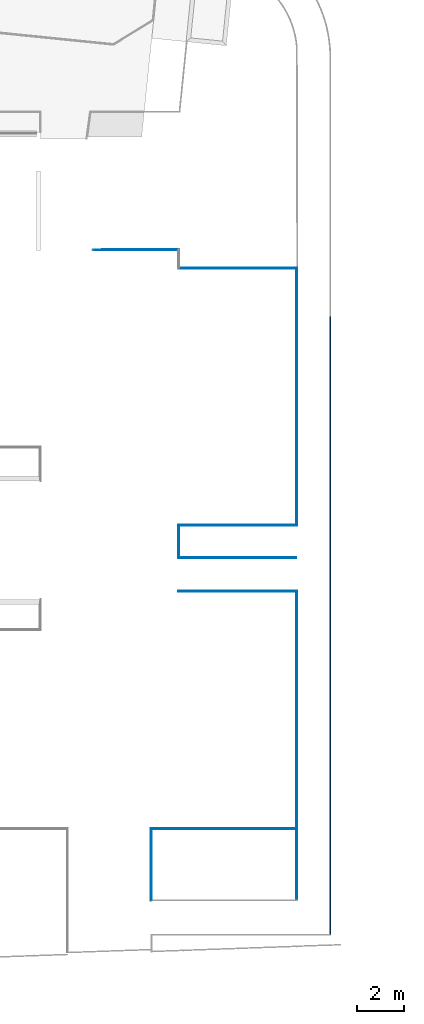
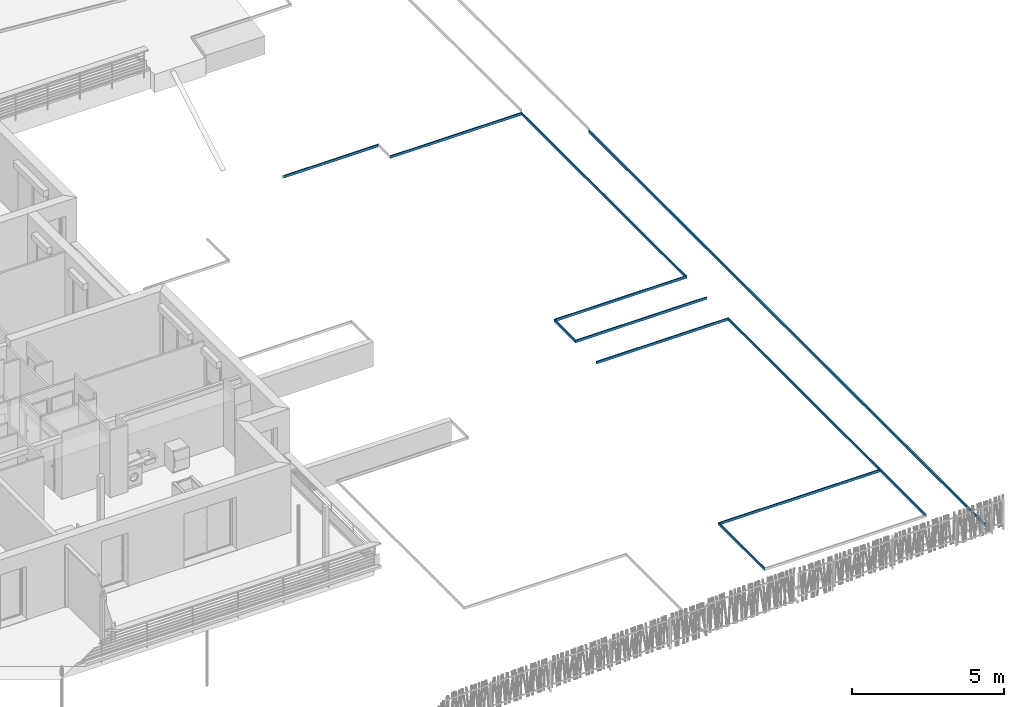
# One storey, part 46 of 171: 11 walls.
"""IFC2X3 building model written with IfcOpenShell, lengths in millimetres."""

from ifc_helpers import new_model, entity, si_unit, converted_unit, derived_unit, money_unit, direction, frame, origin_with_axes, place, context, subcontext, project, spatial, polyline, outline, extrude, material, layer, layer_set, layer_usage, type_object, element, save


model = new_model("IFC2X3")

# Units and contexts
model_context = context("Model", 3, precision=0.01, world=origin_with_axes(), true_north=direction((0.0, 1.0)))
body_context = subcontext(model_context, "Body", "Model", "MODEL_VIEW")
ifc_project = project(units=[si_unit("LENGTHUNIT", "METRE", prefix="MILLI"), si_unit("AREAUNIT", "SQUARE_METRE"), si_unit("VOLUMEUNIT", "CUBIC_METRE"), converted_unit("PLANEANGLEUNIT", "DEGREE", entity("IfcPlaneAngleMeasure", 0.0174532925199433), si_unit("PLANEANGLEUNIT", "RADIAN"), dimensions=[0, 0, 0, 0, 0, 0, 0]), money_unit("USD"), converted_unit("TIMEUNIT", "Year", entity("IfcTimeMeasure", 31557600.0), si_unit("TIMEUNIT", "SECOND"), dimensions=[0, 0, 1, 0, 0, 0, 0]), si_unit("MASSUNIT", "GRAM", prefix="KILO"), si_unit("THERMODYNAMICTEMPERATUREUNIT", "DEGREE_CELSIUS"), si_unit("LUMINOUSINTENSITYUNIT", "LUMEN"), si_unit("ENERGYUNIT", "JOULE", prefix="MEGA"), derived_unit("THERMALCONDUCTANCEUNIT", [(si_unit("POWERUNIT", "WATT"), 1), (si_unit("LENGTHUNIT", "METRE"), -1), (si_unit("THERMODYNAMICTEMPERATUREUNIT", "KELVIN"), -1)]), derived_unit("SPECIFICHEATCAPACITYUNIT", [(si_unit("ENERGYUNIT", "JOULE"), 1), (si_unit("MASSUNIT", "GRAM", prefix="KILO"), -1), (si_unit("THERMODYNAMICTEMPERATUREUNIT", "KELVIN"), -1)]), derived_unit("MASSDENSITYUNIT", [(si_unit("MASSUNIT", "GRAM", prefix="KILO"), 1), (si_unit("VOLUMEUNIT", "CUBIC_METRE"), -1)])], contexts=[model_context])

# Site, building, storey
site_placement = place(None, origin_with_axes())
site = spatial("IfcSite", under=ifc_project, at=site_placement, Name="Site", CompositionType="ELEMENT")
building_placement = place(site_placement, origin_with_axes())
building = spatial("IfcBuilding", under=site, at=building_placement, Name="Bâtiment", CompositionType="ELEMENT")
storey_placement = place(building_placement, frame((0.0, 0.0, 3000.0), z_axis=(0.0, 0.0, 1.0), x_axis=(1.0, 0.0, 0.0)))
storey = spatial("IfcBuildingStorey", under=building, at=storey_placement, Name="rdc", CompositionType="ELEMENT", Elevation=3000.0)

# Walls
ifc_material_1 = material(Name="Hachure solide 268963992")
ifc_layer_1 = layer(ifc_material_1, 50.0, ventilated="UNKNOWN")
ifc_layer_set_1 = layer_set([ifc_layer_1], Name="Cloison 50")
ifc_layer_usage_1 = layer_usage(ifc_layer_set_1, "AXIS2", "NEGATIVE", 50.0)
wall_type_1 = type_object("IfcWallType", Name="Cloison 50 50", PredefinedType="NOTDEFINED")
wall_1_placement = place(storey_placement, frame((2254256.657583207, -640264.8035284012, -2079.56019936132), z_axis=(0.0, 0.0, 1.0), x_axis=(-7.189574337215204e-05, -0.999999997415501, 0.0)))
element("IfcWallStandardCase", 1, at=wall_1_placement, inside=storey, type_object=wall_type_1, material=ifc_layer_usage_1, Name="Mur-160", context=body_context, shape_type="SweptSolid", body=[
    extrude(outline(polyline([(0.0, 0.0), (26087.9021230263, 0.0), (26137.89852836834, 49.99999999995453), (-0.001797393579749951, 49.99999999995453), (0.0, 0.0)])), origin_with_axes(), (0.0, 0.0, 1.0), 100.0),
])
ifc_material_2 = material(Name="Empty Fill 292498448")
ifc_layer_2 = layer(ifc_material_2, 40.0, ventilated="UNKNOWN")
ifc_layer_set_2 = layer_set([ifc_layer_2], Name="mur 4cm")
ifc_layer_usage_2 = layer_usage(ifc_layer_set_2, "AXIS2", "POSITIVE", -40.0)
wall_type_2 = type_object("IfcWallType", Name="mur 4cm 40", PredefinedType="NOTDEFINED")
wall_2_placement = place(storey_placement, frame((2252856.657583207, -651892.7055840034, -2100.0), z_axis=(0.0, 0.0, 1.0), x_axis=(-1.0, 0.0, 0.0)))
element("IfcWallStandardCase", 2, at=wall_2_placement, inside=storey, type_object=wall_type_2, material=ifc_layer_usage_2, Name="Mur-159", context=body_context, shape_type="SweptSolid", body=[
    extrude(outline(polyline([(-40.03063959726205, -40.00000000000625), (5000.0, -40.00000000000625), (5000.0, 0.0), (-1.13686837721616e-10, 0.0), (-40.03063959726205, -40.00000000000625)])), origin_with_axes(), (0.0, 0.0, 1.0), 100.0),
])
ifc_layer_usage_3 = layer_usage(ifc_layer_set_2, "AXIS2", "POSITIVE", -40.0)
wall_3_placement = place(storey_placement, frame((2247856.657583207, -649064.8035284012, -2100.0), z_axis=(0.0, 0.0, 1.0), x_axis=(1.0, 0.0, 0.0)))
element("IfcWallStandardCase", 3, at=wall_3_placement, inside=storey, type_object=wall_type_2, material=ifc_layer_usage_3, Name="Mur-161", context=body_context, shape_type="SweptSolid", body=[
    extrude(outline(polyline([(39.99999999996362, -40.00000000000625), (5039.999999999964, -40.00000000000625), (5000.0, 0.0), (0.0, 0.0), (39.99999999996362, -40.00000000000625)])), origin_with_axes(), (0.0, 0.0, 1.0), 100.0),
])
ifc_layer_usage_4 = layer_usage(ifc_layer_set_2, "AXIS2", "POSITIVE", -40.0)
wall_4_placement = place(storey_placement, frame((2252856.657583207, -649064.8035284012, -2100.0), z_axis=(0.0, 0.0, 1.0), x_axis=(0.0, 1.0, 0.0)))
element("IfcWallStandardCase", 4, at=wall_4_placement, inside=storey, type_object=wall_type_2, material=ifc_layer_usage_4, Name="Mur-162", context=body_context, shape_type="SweptSolid", body=[
    extrude(outline(polyline([(-40.00000000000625, -39.99999999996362), (10840.0, -39.99999999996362), (10800.0, 0.0), (0.0, 0.0), (-40.00000000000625, -39.99999999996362)])), origin_with_axes(), (0.0, 0.0, 1.0), 100.0),
])
ifc_layer_usage_5 = layer_usage(ifc_layer_set_2, "AXIS2", "POSITIVE", -40.0)
wall_5_placement = place(storey_placement, frame((2246706.657583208, -664952.7055840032, -2100.0), z_axis=(0.0, 0.0, 1.0), x_axis=(0.0, 1.0, 0.0)))
element("IfcWallStandardCase", 5, at=wall_5_placement, inside=storey, type_object=wall_type_2, material=ifc_layer_usage_5, Name="Mur-156", context=body_context, shape_type="SweptSolid", body=[
    extrude(outline(polyline([(49.99999999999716, -39.99999999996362), (3019.999999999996, -39.99999999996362), (3060.000000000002, 0.0), (0.0, 0.0), (49.99999999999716, -39.99999999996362)])), origin_with_axes(), (0.0, 0.0, 1.0), 100.0),
])
ifc_layer_usage_6 = layer_usage(ifc_layer_set_2, "AXIS2", "POSITIVE", -40.0)
wall_6_placement = place(storey_placement, frame((2247856.657583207, -650492.7055840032, -2100.0), z_axis=(0.0, 0.0, 1.0), x_axis=(0.0, 1.0, 0.0)))
element("IfcWallStandardCase", 6, at=wall_6_placement, inside=storey, type_object=wall_type_2, material=ifc_layer_usage_6, Name="Mur-160", context=body_context, shape_type="SweptSolid", body=[
    extrude(outline(polyline([(40.00000000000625, -39.99999999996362), (1387.902055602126, -39.99999999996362), (1427.902055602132, 0.0), (0.0, 0.0), (40.00000000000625, -39.99999999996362)])), origin_with_axes(), (0.0, 0.0, 1.0), 100.0),
])
ifc_layer_usage_7 = layer_usage(ifc_layer_set_2, "AXIS2", "POSITIVE", -40.0)
wall_7_placement = place(storey_placement, frame((2252846.657583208, -664952.7055840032, -2100.0), z_axis=(0.0, 0.0, 1.0), x_axis=(0.0007656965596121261, 0.9999997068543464, 0.0)))
element("IfcWallStandardCase", 7, at=wall_7_placement, inside=storey, type_object=wall_type_2, material=ifc_layer_usage_7, Name="Mur-158", context=body_context, shape_type="SweptSolid", body=[
    extrude(outline(polyline([(50.03064252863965, -40.00000000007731), (13100.03446808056, -40.00000000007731), (13060.00382848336, 0.0), (50.00001465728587, 0.0), (50.03064252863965, -40.00000000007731)])), origin_with_axes(), (0.0, 0.0, 1.0), 100.0),
])
ifc_layer_usage_8 = layer_usage(ifc_layer_set_2, "AXIS2", "POSITIVE", -40.0)
wall_8_placement = place(storey_placement, frame((2252856.657583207, -638264.8035284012, -2100.0), z_axis=(0.0, 0.0, 1.0), x_axis=(-1.0, 0.0, 0.0)))
element("IfcWallStandardCase", 8, at=wall_8_placement, inside=storey, type_object=wall_type_2, material=ifc_layer_usage_8, Name="Mur-163", context=body_context, shape_type="SweptSolid", body=[
    extrude(outline(polyline([(-39.99999999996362, -40.00000000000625), (4960.024038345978, -40.00000000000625), (4999.999999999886, 0.0), (0.0, 0.0), (-39.99999999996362, -40.00000000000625)])), origin_with_axes(), (0.0, 0.0, 1.0), 100.0),
])
ifc_layer_usage_9 = layer_usage(ifc_layer_set_2, "AXIS2", "POSITIVE", -40.0)
wall_9_placement = place(storey_placement, frame((2252856.657583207, -650492.7055840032, -2100.0), z_axis=(0.0, 0.0, 1.0), x_axis=(-1.0, 0.0, 0.0)))
element("IfcWallStandardCase", 9, at=wall_9_placement, inside=storey, type_object=wall_type_2, material=ifc_layer_usage_9, Name="Mur-159", context=body_context, shape_type="SweptSolid", body=[
    extrude(outline(polyline([(0.0, -40.00000000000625), (4960.000000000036, -40.00000000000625), (5000.0, 0.0), (0.0, 0.0), (0.0, -40.00000000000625)])), origin_with_axes(), (0.0, 0.0, 1.0), 100.0),
])
ifc_layer_usage_10 = layer_usage(ifc_layer_set_2, "AXIS2", "POSITIVE", -40.0)
wall_10_placement = place(storey_placement, frame((2246706.657583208, -661892.7055840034, -2100.0), z_axis=(0.0, 0.0, 1.0), x_axis=(1.0, 0.0, 0.0)))
element("IfcWallStandardCase", 10, at=wall_10_placement, inside=storey, type_object=wall_type_2, material=ifc_layer_usage_10, Name="Mur-157", context=body_context, shape_type="SweptSolid", body=[
    extrude(outline(polyline([(39.99999999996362, -40.00000000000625), (6149.999999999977, -40.00000000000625), (6149.999999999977, 0.0), (0.0, 0.0), (39.99999999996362, -40.00000000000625)])), origin_with_axes(), (0.0, 0.0, 1.0), 100.0),
])
ifc_layer_usage_11 = layer_usage(ifc_layer_set_2, "AXIS2", "POSITIVE", -40.0)
wall_11_placement = place(storey_placement, frame((2247856.189584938, -637486.2847320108, -2100.0), z_axis=(0.0, 0.0, 1.0), x_axis=(-0.9999999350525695, -0.0003604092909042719, 0.0)))
element("IfcWallStandardCase", 11, at=wall_11_placement, inside=storey, type_object=wall_type_2, material=ifc_layer_usage_11, Name="Mur-163", context=body_context, shape_type="SweptSolid", body=[
    extrude(outline(polyline([(-39.99037196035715, -39.99999999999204), (3585.895777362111, -40.00000000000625), (3585.895777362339, 0.0), (0.0, 0.0), (-39.99037196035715, -39.99999999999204)])), origin_with_axes(), (0.0, 0.0, 1.0), 100.0),
])

save(model, "model.ifc")
